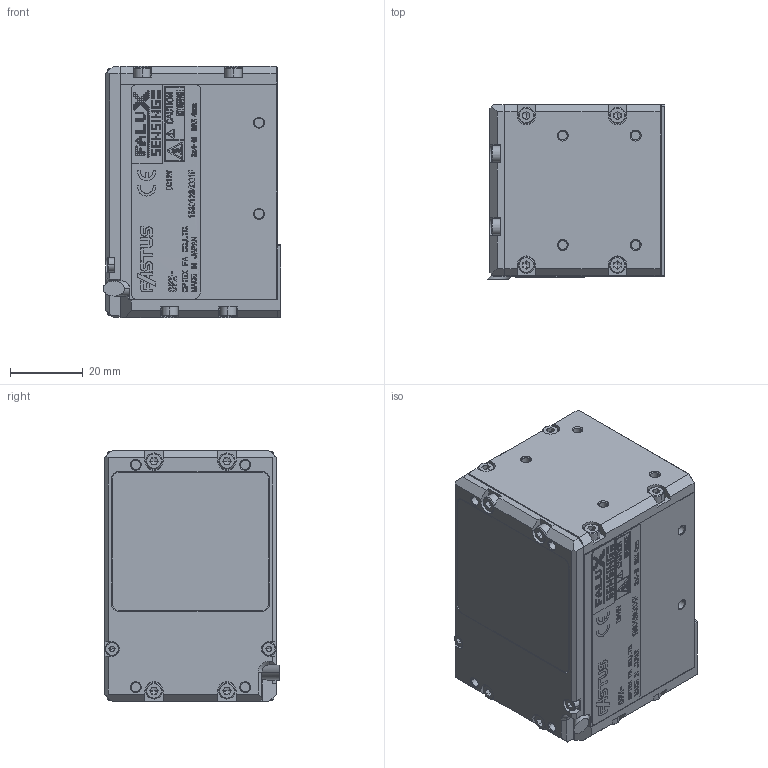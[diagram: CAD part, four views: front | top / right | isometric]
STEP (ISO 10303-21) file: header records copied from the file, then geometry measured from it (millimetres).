
FILE_DESCRIPTION(('Creo Elements/Direct Modeling STEP Export'),'2;1');
FILE_NAME('OPX-S35.stp','2015-11-24T15:10:56',(''),(''),'PTC Creo Elements/Direct Modeling STEP processor for AP214 (Solid Model)','PTC Creo Elements/Direct Modeling 19.0 09-May-2014 (C) Parametric Technology GmbH','');
FILE_SCHEMA(('AUTOMOTIVE_DESIGN { 1 0 10303 214 1 1 1 1 }'));
Products named in the file (2): OPX-S35.PRT
Assembly tree (1 placements, depth 2):
  OPX-S35.PRT
    OPX-S35.PRT
Bounding box: 48.74 x 47.84 x 69 mm (x, y, z)
Volume: 117132.9 mm3; surface area: 29414.8 mm2
Topology: 1 solids, 33 shells, 1236 faces, 4057 edges, 3239 vertices
Faces by surface type: plane 867, cylinder 225, cone 144
Entity records: 58217 total; most frequent: CARTESIAN_POINT 12916, ORIENTED_EDGE 8058, DIRECTION 6067, EDGE_CURVE 4029, VERTEX_POINT 3239, VECTOR 2729, LINE 2729, AXIS2_PLACEMENT_3D 1669
